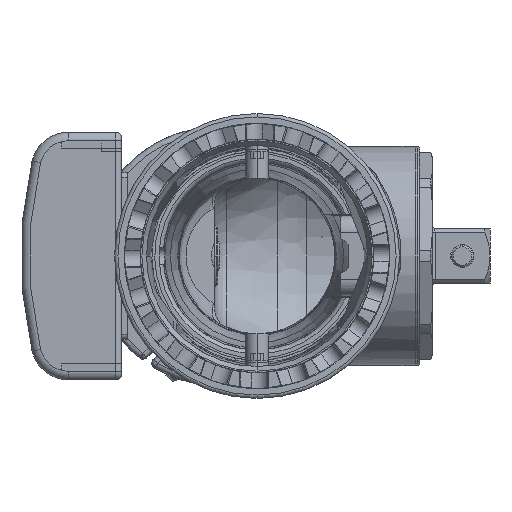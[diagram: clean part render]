
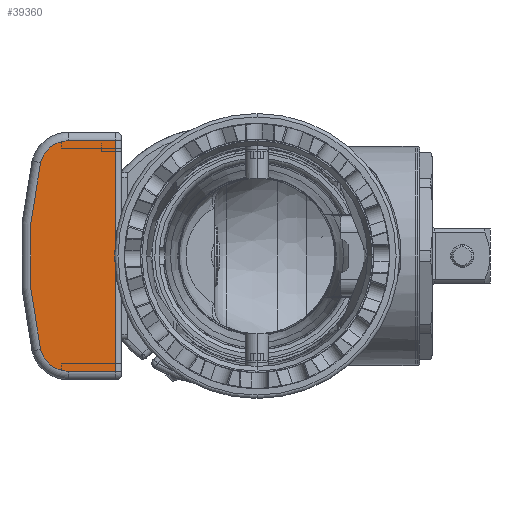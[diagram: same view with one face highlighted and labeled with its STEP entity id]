
A CAD part, left-side view. The second image highlights one B-rep face of the part: STEP entity #39360.
In plain terms, the highlighted planar face has unit normal (-1, 0, 0).
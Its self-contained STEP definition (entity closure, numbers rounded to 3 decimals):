
#38439 = VERTEX_POINT ( 'NONE', #51377 ) ;
#38443 = EDGE_CURVE ( 'NONE', #38488, #38439, #51374, .T. ) ;
#38488 = VERTEX_POINT ( 'NONE', #51464 ) ;
#38591 = VERTEX_POINT ( 'NONE', #51903 ) ;
#38598 = EDGE_CURVE ( 'NONE', #38439, #38591, #51896, .T. ) ;
#38624 = VERTEX_POINT ( 'NONE', #51941 ) ;
#38628 = EDGE_CURVE ( 'NONE', #38591, #38624, #51937, .T. ) ;
#39027 = VERTEX_POINT ( 'NONE', #52800 ) ;
#39187 = EDGE_CURVE ( 'NONE', #39189, #39027, #53214, .T. ) ;
#39189 = VERTEX_POINT ( 'NONE', #53206 ) ;
#39329 = ORIENTED_EDGE ( 'NONE', *, *, #38598, .T. ) ;
#39330 = ORIENTED_EDGE ( 'NONE', *, *, #38628, .T. ) ;
#39355 = EDGE_CURVE ( 'NONE', #38624, #39189, #53888, .T. ) ;
#39360 = ADVANCED_FACE ( 'NONE', ( #53864 ), #53840, .F. ) ;
#39364 = EDGE_LOOP ( 'NONE', ( #39368, #39370, #39373, #39377, #39329, #39330 ) ) ;
#39368 = ORIENTED_EDGE ( 'NONE', *, *, #39355, .T. ) ;
#39370 = ORIENTED_EDGE ( 'NONE', *, *, #39187, .T. ) ;
#39373 = ORIENTED_EDGE ( 'NONE', *, *, #39374, .T. ) ;
#39374 = EDGE_CURVE ( 'NONE', #39027, #38488, #53944, .T. ) ;
#39377 = ORIENTED_EDGE ( 'NONE', *, *, #38443, .T. ) ;
#51367 = DIRECTION ( 'NONE',  ( 0., 0., -1. ) ) ;
#51369 = DIRECTION ( 'NONE',  ( -1., 0., 0. ) ) ;
#51370 = CARTESIAN_POINT ( 'NONE',  ( -192.61, 32.703, 15. ) ) ;
#51372 = AXIS2_PLACEMENT_3D ( 'NONE', #51370, #51369, #51367 ) ;
#51374 = CIRCLE ( 'NONE', #51372, 5. ) ;
#51377 = CARTESIAN_POINT ( 'NONE',  ( -192.61, 37.561, 16.181 ) ) ;
#51464 = CARTESIAN_POINT ( 'NONE',  ( -192.61, 32.703, 20. ) ) ;
#51889 = DIRECTION ( 'NONE',  ( 0., 0., -1. ) ) ;
#51891 = DIRECTION ( 'NONE',  ( -1., 0., 0. ) ) ;
#51892 = CARTESIAN_POINT ( 'NONE',  ( -192.61, -29., 0. ) ) ;
#51894 = AXIS2_PLACEMENT_3D ( 'NONE', #51892, #51891, #51889 ) ;
#51896 = CIRCLE ( 'NONE', #51894, 68.5 ) ;
#51903 = CARTESIAN_POINT ( 'NONE',  ( -192.61, 37.561, -16.181 ) ) ;
#51930 = DIRECTION ( 'NONE',  ( 0., 0., -1. ) ) ;
#51932 = DIRECTION ( 'NONE',  ( -1., 0., 0. ) ) ;
#51934 = CARTESIAN_POINT ( 'NONE',  ( -192.61, 32.703, -15. ) ) ;
#51935 = AXIS2_PLACEMENT_3D ( 'NONE', #51934, #51932, #51930 ) ;
#51937 = CIRCLE ( 'NONE', #51935, 5. ) ;
#51941 = CARTESIAN_POINT ( 'NONE',  ( -192.61, 32.703, -20. ) ) ;
#52800 = CARTESIAN_POINT ( 'NONE',  ( -192.61, 24.5, 20. ) ) ;
#53206 = CARTESIAN_POINT ( 'NONE',  ( -192.61, 24.5, -20. ) ) ;
#53209 = DIRECTION ( 'NONE',  ( 0., 0., 1. ) ) ;
#53210 = VECTOR ( 'NONE', #53209, 1000. ) ;
#53212 = CARTESIAN_POINT ( 'NONE',  ( -192.61, 24.5, -21.5 ) ) ;
#53214 = LINE ( 'NONE', #53212, #53210 ) ;
#53840 = PLANE ( 'NONE',  #53949 ) ;
#53864 = FACE_OUTER_BOUND ( 'NONE', #39364, .T. ) ;
#53880 = DIRECTION ( 'NONE',  ( 0., -1., 0. ) ) ;
#53882 = VECTOR ( 'NONE', #53880, 1000. ) ;
#53885 = CARTESIAN_POINT ( 'NONE',  ( -192.61, 23.5, -20. ) ) ;
#53888 = LINE ( 'NONE', #53885, #53882 ) ;
#53939 = DIRECTION ( 'NONE',  ( 0., 1., 0. ) ) ;
#53940 = VECTOR ( 'NONE', #53939, 1000. ) ;
#53943 = CARTESIAN_POINT ( 'NONE',  ( -192.61, 23.5, 20. ) ) ;
#53944 = LINE ( 'NONE', #53943, #53940 ) ;
#53945 = DIRECTION ( 'NONE',  ( 0., 0., -1. ) ) ;
#53946 = DIRECTION ( 'NONE',  ( 1., 0., 0. ) ) ;
#53948 = CARTESIAN_POINT ( 'NONE',  ( -192.61, 23.5, -21.5 ) ) ;
#53949 = AXIS2_PLACEMENT_3D ( 'NONE', #53948, #53946, #53945 ) ;
